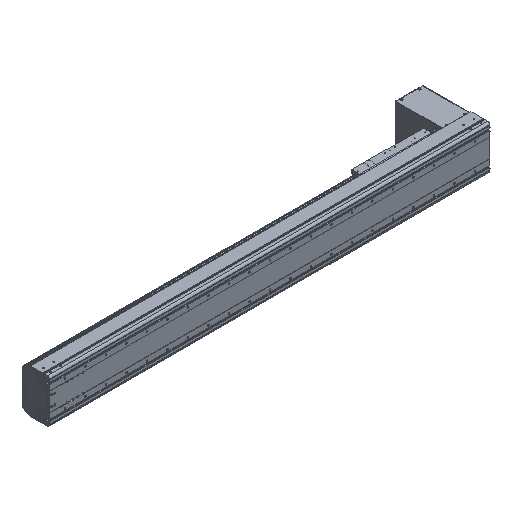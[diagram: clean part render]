
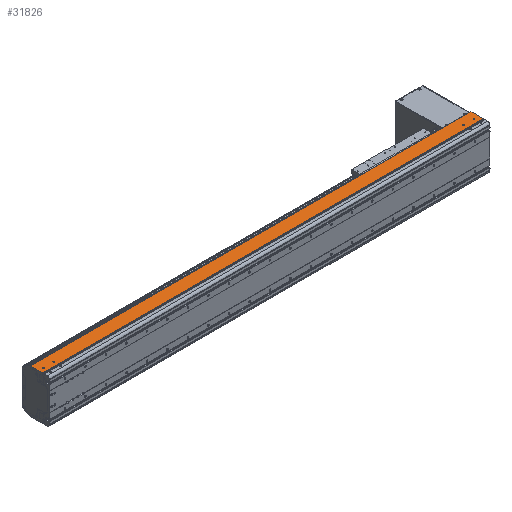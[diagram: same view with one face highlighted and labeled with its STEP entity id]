
A CAD part, isometric view. The second image highlights one B-rep face of the part: STEP entity #31826.
In plain terms, the highlighted planar face has unit normal (0, 0, 1).
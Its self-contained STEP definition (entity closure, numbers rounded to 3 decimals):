
#8506=DIRECTION('',(-1.,-0.006,-0.017));
#8507=VECTOR('',#8506,1.5);
#8508=CARTESIAN_POINT('',(1.5,94.,107.));
#8509=LINE('',#8508,#8507);
#8510=DIRECTION('',(-1.,0.,0.));
#8511=VECTOR('',#8510,2148.5);
#8512=CARTESIAN_POINT('',(0.,93.5,107.));
#8513=LINE('',#8512,#8511);
#8554=CARTESIAN_POINT('',(0.,93.992,106.974));
#8555=CARTESIAN_POINT('',(0.,93.939,
106.974));
#8556=CARTESIAN_POINT('',(0.,93.857,
107.018));
#8557=CARTESIAN_POINT('',(0.,93.779,
106.99));
#8558=CARTESIAN_POINT('',(0.,93.747,106.99));
#8560=CARTESIAN_POINT('',(0.,93.747,106.99));
#8561=CARTESIAN_POINT('',(0.,93.707,
106.99));
#8562=CARTESIAN_POINT('',(0.,93.626,
107.005));
#8563=CARTESIAN_POINT('',(0.,93.543,107.));
#8564=CARTESIAN_POINT('',(0.,93.5,107.));
#8566=CARTESIAN_POINT('',(-2123.5,54.,107.));
#8567=DIRECTION('',(0.,0.,-1.));
#8568=DIRECTION('',(1.,0.,0.));
#8569=AXIS2_PLACEMENT_3D('',#8566,#8567,#8568);
#8571=CARTESIAN_POINT('',(-2123.5,54.,107.));
#8572=DIRECTION('',(0.,0.,-1.));
#8573=DIRECTION('',(-1.,0.,0.));
#8574=AXIS2_PLACEMENT_3D('',#8571,#8572,#8573);
#8576=CARTESIAN_POINT('',(-2073.5,54.,107.));
#8577=DIRECTION('',(0.,0.,-1.));
#8578=DIRECTION('',(1.,0.,0.));
#8579=AXIS2_PLACEMENT_3D('',#8576,#8577,#8578);
#8581=CARTESIAN_POINT('',(-2073.5,54.,107.));
#8582=DIRECTION('',(0.,0.,-1.));
#8583=DIRECTION('',(-1.,0.,0.));
#8584=AXIS2_PLACEMENT_3D('',#8581,#8582,#8583);
#8586=CARTESIAN_POINT('',(-23.5,54.,107.));
#8587=DIRECTION('',(0.,0.,-1.));
#8588=DIRECTION('',(1.,0.,0.));
#8589=AXIS2_PLACEMENT_3D('',#8586,#8587,#8588);
#8591=CARTESIAN_POINT('',(-23.5,54.,107.));
#8592=DIRECTION('',(0.,0.,-1.));
#8593=DIRECTION('',(-1.,0.,0.));
#8594=AXIS2_PLACEMENT_3D('',#8591,#8592,#8593);
#8596=CARTESIAN_POINT('',(-73.5,54.,107.));
#8597=DIRECTION('',(0.,0.,-1.));
#8598=DIRECTION('',(1.,0.,0.));
#8599=AXIS2_PLACEMENT_3D('',#8596,#8597,#8598);
#8601=CARTESIAN_POINT('',(-73.5,54.,107.));
#8602=DIRECTION('',(0.,0.,-1.));
#8603=DIRECTION('',(-1.,0.,0.));
#8604=AXIS2_PLACEMENT_3D('',#8601,#8602,#8603);
#8606=DIRECTION('',(0.,-1.,0.));
#8607=VECTOR('',#8606,2.55);
#8608=CARTESIAN_POINT('',(-2146.5,34.65,107.));
#8609=LINE('',#8608,#8607);
#8610=DIRECTION('',(0.,-1.,0.));
#8611=VECTOR('',#8610,58.85);
#8612=CARTESIAN_POINT('',(-2148.5,93.5,107.));
#8613=LINE('',#8612,#8611);
#8614=DIRECTION('',(0.,1.,0.));
#8615=VECTOR('',#8614,58.35);
#8616=CARTESIAN_POINT('',(1.5,35.65,107.));
#8617=LINE('',#8616,#8615);
#8618=DIRECTION('',(0.,1.,0.));
#8619=VECTOR('',#8618,3.55);
#8620=CARTESIAN_POINT('',(0.,32.1,107.));
#8621=LINE('',#8620,#8619);
#8622=DIRECTION('',(1.,0.,0.));
#8623=VECTOR('',#8622,2146.5);
#8624=CARTESIAN_POINT('',(-2146.5,32.1,107.));
#8625=LINE('',#8624,#8623);
#8734=DIRECTION('',(1.,0.,0.));
#8735=VECTOR('',#8734,2.);
#8736=CARTESIAN_POINT('',(-2148.5,34.65,107.));
#8737=LINE('',#8736,#8735);
#8758=DIRECTION('',(1.,0.,0.));
#8759=VECTOR('',#8758,1.5);
#8760=CARTESIAN_POINT('',(0.,35.65,107.));
#8761=LINE('',#8760,#8759);
#17298=CARTESIAN_POINT('',(1.5,94.,107.));
#17299=VERTEX_POINT('',#17298);
#17300=CARTESIAN_POINT('',(1.5,35.65,107.));
#17301=VERTEX_POINT('',#17300);
#17370=CARTESIAN_POINT('',(-2148.5,34.65,107.));
#17371=VERTEX_POINT('',#17370);
#17372=CARTESIAN_POINT('',(-2148.5,93.5,107.));
#17373=VERTEX_POINT('',#17372);
#17598=CARTESIAN_POINT('',(-2146.5,32.1,107.));
#17599=VERTEX_POINT('',#17598);
#17649=CARTESIAN_POINT('',(0.,32.1,107.));
#17651=VERTEX_POINT('',#17649);
#18216=CARTESIAN_POINT('',(-2121.,54.,107.));
#18217=CARTESIAN_POINT('',(-2126.,54.,107.));
#18218=VERTEX_POINT('',#18216);
#18219=VERTEX_POINT('',#18217);
#18220=CARTESIAN_POINT('',(-2071.,54.,107.));
#18221=CARTESIAN_POINT('',(-2076.,54.,107.));
#18222=VERTEX_POINT('',#18220);
#18223=VERTEX_POINT('',#18221);
#18224=CARTESIAN_POINT('',(-21.,54.,107.));
#18225=CARTESIAN_POINT('',(-26.,54.,107.));
#18226=VERTEX_POINT('',#18224);
#18227=VERTEX_POINT('',#18225);
#18228=CARTESIAN_POINT('',(-71.,54.,107.));
#18229=CARTESIAN_POINT('',(-76.,54.,107.));
#18230=VERTEX_POINT('',#18228);
#18231=VERTEX_POINT('',#18229);
#20450=CARTESIAN_POINT('',(0.,35.65,107.));
#20451=VERTEX_POINT('',#20450);
#20452=CARTESIAN_POINT('',(0.,93.975,106.923));
#20454=VERTEX_POINT('',#20452);
#20600=VERTEX_POINT('',#8558);
#20601=VERTEX_POINT('',#8564);
#21059=CARTESIAN_POINT('',(-2146.5,34.65,107.));
#21060=VERTEX_POINT('',#21059);
#31781=CARTESIAN_POINT('',(-1073.25,62.8,107.));
#31782=DIRECTION('',(0.,0.,1.));
#31783=DIRECTION('',(0.,-1.,0.));
#31784=AXIS2_PLACEMENT_3D('',#31781,#31782,#31783);
#31785=PLANE('',#31784);
#31786=ORIENTED_EDGE('',*,*,#22960,.F.);
#31788=ORIENTED_EDGE('',*,*,#31787,.F.);
#31789=ORIENTED_EDGE('',*,*,#25174,.F.);
#31790=ORIENTED_EDGE('',*,*,#31762,.F.);
#31791=ORIENTED_EDGE('',*,*,#31776,.F.);
#31792=ORIENTED_EDGE('',*,*,#31774,.F.);
#31793=ORIENTED_EDGE('',*,*,#31752,.F.);
#31794=ORIENTED_EDGE('',*,*,#21886,.F.);
#31796=ORIENTED_EDGE('',*,*,#31795,.F.);
#31797=ORIENTED_EDGE('',*,*,#23717,.F.);
#31799=ORIENTED_EDGE('',*,*,#31798,.F.);
#31800=EDGE_LOOP('',(#31786,#31788,#31789,#31790,#31791,#31792,#31793,#31794,
#31796,#31797,#31799));
#31801=FACE_OUTER_BOUND('',#31800,.F.);
#31803=ORIENTED_EDGE('',*,*,#31802,.F.);
#31805=ORIENTED_EDGE('',*,*,#31804,.F.);
#31806=EDGE_LOOP('',(#31803,#31805));
#31807=FACE_BOUND('',#31806,.F.);
#31809=ORIENTED_EDGE('',*,*,#31808,.F.);
#31811=ORIENTED_EDGE('',*,*,#31810,.F.);
#31812=EDGE_LOOP('',(#31809,#31811));
#31813=FACE_BOUND('',#31812,.F.);
#31815=ORIENTED_EDGE('',*,*,#31814,.F.);
#31817=ORIENTED_EDGE('',*,*,#31816,.F.);
#31818=EDGE_LOOP('',(#31815,#31817));
#31819=FACE_BOUND('',#31818,.F.);
#31821=ORIENTED_EDGE('',*,*,#31820,.F.);
#31823=ORIENTED_EDGE('',*,*,#31822,.F.);
#31824=EDGE_LOOP('',(#31821,#31823));
#31825=FACE_BOUND('',#31824,.F.);
#31826=ADVANCED_FACE('',(#31801,#31807,#31813,#31819,#31825),#31785,.T.);
#8559=B_SPLINE_CURVE_WITH_KNOTS('',3,(#8554,#8555,#8556,#8557,#8558),
.UNSPECIFIED.,.F.,.F.,(4,1,4),(0.,0.5,1.),.UNSPECIFIED.);
#8565=B_SPLINE_CURVE_WITH_KNOTS('',3,(#8560,#8561,#8562,#8563,#8564),
.UNSPECIFIED.,.F.,.F.,(4,1,4),(0.,0.5,1.),.UNSPECIFIED.);
#8570=CIRCLE('',#8569,2.5);
#8575=CIRCLE('',#8574,2.5);
#8580=CIRCLE('',#8579,2.5);
#8585=CIRCLE('',#8584,2.5);
#8590=CIRCLE('',#8589,2.5);
#8595=CIRCLE('',#8594,2.5);
#8600=CIRCLE('',#8599,2.5);
#8605=CIRCLE('',#8604,2.5);
#21886=EDGE_CURVE('',#17301,#17299,#8617,.T.);
#22960=EDGE_CURVE('',#21060,#17599,#8609,.T.);
#23717=EDGE_CURVE('',#17651,#20451,#8621,.T.);
#25174=EDGE_CURVE('',#17373,#17371,#8613,.T.);
#31752=EDGE_CURVE('',#17299,#20454,#8509,.T.);
#31762=EDGE_CURVE('',#20601,#17373,#8513,.T.);
#31774=EDGE_CURVE('',#20454,#20600,#8559,.T.);
#31776=EDGE_CURVE('',#20600,#20601,#8565,.T.);
#31787=EDGE_CURVE('',#17371,#21060,#8737,.T.);
#31795=EDGE_CURVE('',#20451,#17301,#8761,.T.);
#31798=EDGE_CURVE('',#17599,#17651,#8625,.T.);
#31802=EDGE_CURVE('',#18222,#18223,#8580,.T.);
#31804=EDGE_CURVE('',#18223,#18222,#8585,.T.);
#31808=EDGE_CURVE('',#18226,#18227,#8590,.T.);
#31810=EDGE_CURVE('',#18227,#18226,#8595,.T.);
#31814=EDGE_CURVE('',#18230,#18231,#8600,.T.);
#31816=EDGE_CURVE('',#18231,#18230,#8605,.T.);
#31820=EDGE_CURVE('',#18218,#18219,#8570,.T.);
#31822=EDGE_CURVE('',#18219,#18218,#8575,.T.);
